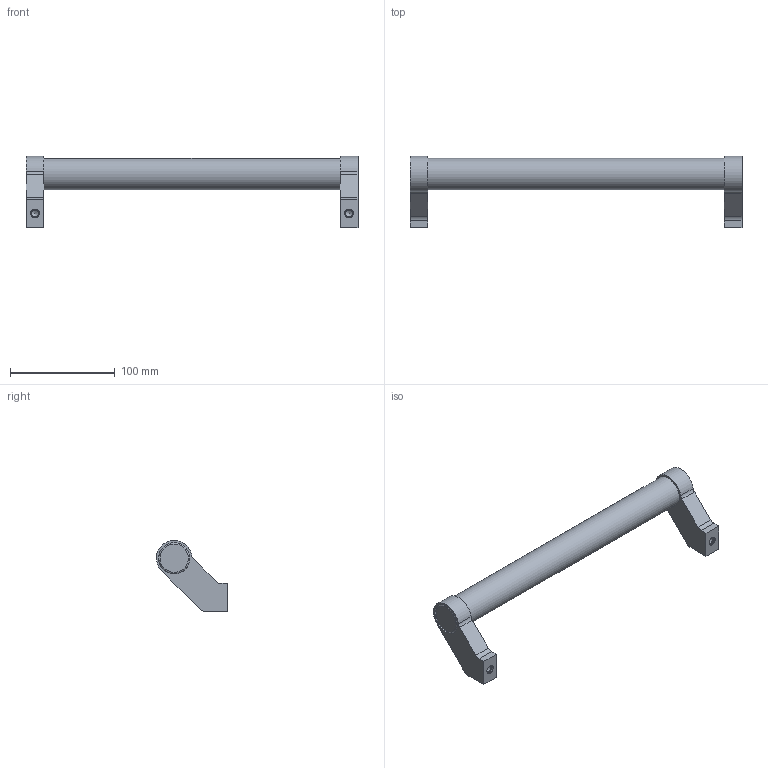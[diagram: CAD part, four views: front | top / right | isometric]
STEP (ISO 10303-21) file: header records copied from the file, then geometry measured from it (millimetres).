
FILE_DESCRIPTION( ( 'STEP AP203' ), '1' );
FILE_NAME( 'C:/Temp/Ganter_Step_05_03_2020/data/1_2/gn333/Tubular handle GN 333-30-300-A-ES.stp', '2020-03-05T10:16:21', ( 'License CC BY-ND 4.0' ), ( 'CADENAS' ), ' ', 'PARTsolutions', ' ' );
FILE_SCHEMA( ( 'CONFIG_CONTROL_DESIGN' ) );
Length unit declared in the file: millimetre
Products named in the file (1): _Tubular handle GN 333-30-300-A-ES
Bounding box: 317 x 67.96 x 67.99 mm (x, y, z)
Volume: 281605.5 mm3; surface area: 43613.3 mm2
Topology: 1 solids, 1 shells, 47 faces, 108 edges, 69 vertices
Faces by surface type: plane 26, cylinder 15, cone 4, torus 2
Full cylindrical faces by diameter (mm): 6.647 x2, 8.5 x2, 30 x3
Entity records: 1326 total; most frequent: CARTESIAN_POINT 270, DIRECTION 216, ORIENTED_EDGE 184, EDGE_CURVE 92, AXIS2_PLACEMENT_3D 84, VERTEX_POINT 66, EDGE_LOOP 64, FACE_OUTER_BOUND 54
